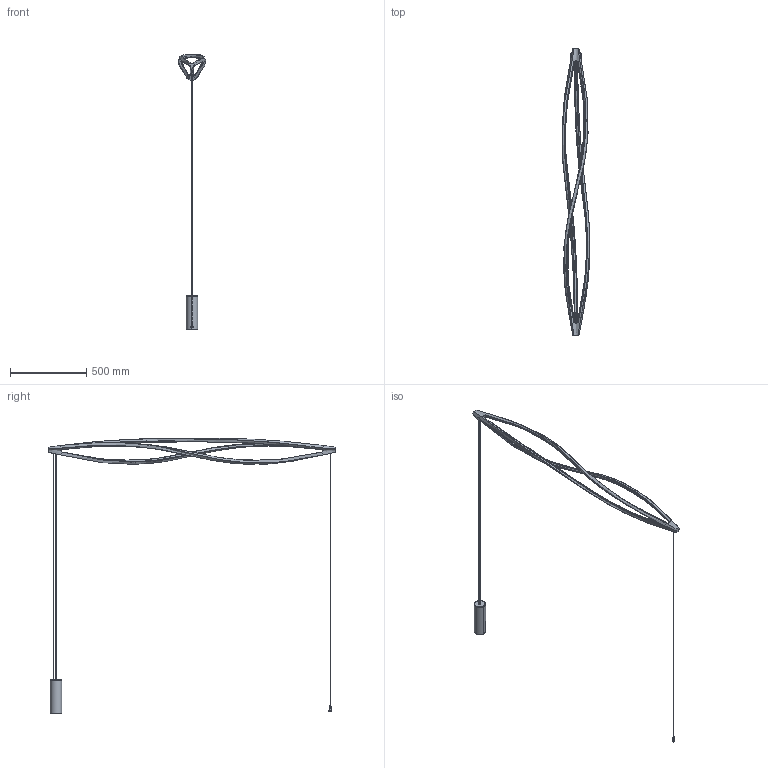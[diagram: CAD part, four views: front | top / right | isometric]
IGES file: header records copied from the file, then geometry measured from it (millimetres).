
Start section: SolidWorks IGES file using analytic representation for surfaces
Global section: file name: C:\Users\tungari.NEMOLIGHTING\Desktop\15_02\PENDANT\3D_IN_THE_WIND\DEFEATURE_3D_IN_THE_WIND_H\3D_IN_THE_WIND_H.IGS; native system: SolidWorks 2016; preprocessor: SolidWorks 2016; author: tungari; date: 180219.184657; units: millimetre
Bounding box: 180.64 x 1876.75 x 1798.73 mm (x, y, z)
Surface area: 786228.8 mm2 (no closed solid volume)
Topology: 0 solids, 0 shells, 194 faces, 2040 edges, 2038 vertices
Faces by surface type: bspline 151, revolution 43
